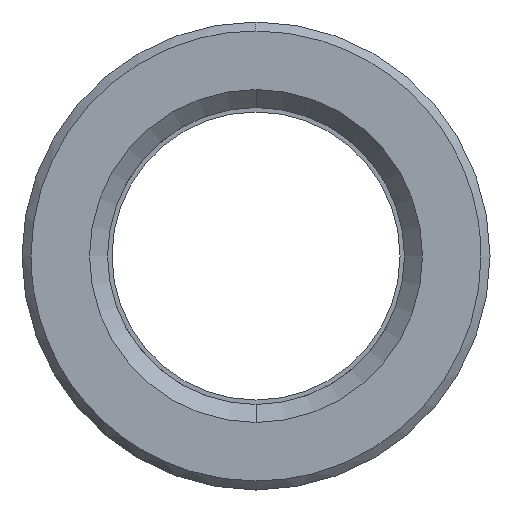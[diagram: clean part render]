
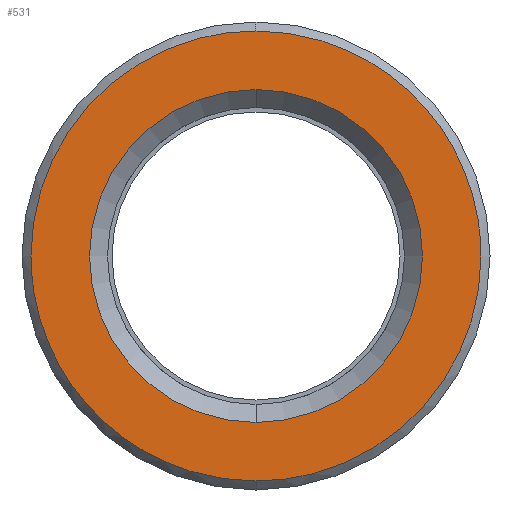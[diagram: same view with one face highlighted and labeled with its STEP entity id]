
A CAD part, left-side view. The second image highlights one B-rep face of the part: STEP entity #531.
In plain terms, the highlighted planar face has unit normal (-1, 0, 0).
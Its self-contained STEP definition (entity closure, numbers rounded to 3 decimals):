
#311=CARTESIAN_POINT('Axis2P3D Location',(0.,0.,0.)) ;
#315=CARTESIAN_POINT('Vertex',(0.,9.25,0.)) ;
#317=CARTESIAN_POINT('Vertex',(0.,0.,9.25)) ;
#320=CARTESIAN_POINT('Axis2P3D Location',(0.,0.,0.)) ;
#324=CARTESIAN_POINT('Vertex',(0.,0.,-9.25)) ;
#351=CARTESIAN_POINT('Axis2P3D Location',(0.,0.,0.)) ;
#355=CARTESIAN_POINT('Vertex',(0.,-9.25,0.)) ;
#358=CARTESIAN_POINT('Axis2P3D Location',(0.,0.,0.)) ;
#438=CARTESIAN_POINT('Axis2P3D Location',(0.,12.5,0.)) ;
#444=CARTESIAN_POINT('Control Point',(0.,0.,-12.5)) ;
#445=CARTESIAN_POINT('Control Point',(0.,0.923,-12.5)) ;
#446=CARTESIAN_POINT('Control Point',(0.,1.846,-12.415)) ;
#447=CARTESIAN_POINT('Control Point',(0.,2.758,-12.245)) ;
#448=CARTESIAN_POINT('Control Point',(0.,4.82,-11.658)) ;
#449=CARTESIAN_POINT('Control Point',(0.,6.718,-10.646)) ;
#450=CARTESIAN_POINT('Control Point',(0.,7.721,-9.943)) ;
#451=CARTESIAN_POINT('Control Point',(0.,9.535,-8.308)) ;
#452=CARTESIAN_POINT('Control Point',(0.,10.907,-6.287)) ;
#453=CARTESIAN_POINT('Control Point',(0.,11.466,-5.197)) ;
#454=CARTESIAN_POINT('Control Point',(0.,12.089,-3.503)) ;
#455=CARTESIAN_POINT('Control Point',(0.,12.399,-1.736)) ;
#456=CARTESIAN_POINT('Control Point',(0.,12.466,-1.159)) ;
#457=CARTESIAN_POINT('Control Point',(0.,12.5,-0.579)) ;
#458=CARTESIAN_POINT('Control Point',(0.,12.5,0.)) ;
#459=CARTESIAN_POINT('Vertex',(0.,0.,-12.5)) ;
#461=CARTESIAN_POINT('Vertex',(0.,12.5,0.)) ;
#465=CARTESIAN_POINT('Control Point',(0.,-12.5,0.)) ;
#466=CARTESIAN_POINT('Control Point',(0.,-12.5,-1.212)) ;
#467=CARTESIAN_POINT('Control Point',(0.,-12.353,-2.425)) ;
#468=CARTESIAN_POINT('Control Point',(0.,-12.059,-3.614)) ;
#469=CARTESIAN_POINT('Control Point',(0.,-11.189,-5.896)) ;
#470=CARTESIAN_POINT('Control Point',(0.,-9.798,-7.904)) ;
#471=CARTESIAN_POINT('Control Point',(0.,-8.984,-8.819)) ;
#472=CARTESIAN_POINT('Control Point',(0.,-7.15,-10.432)) ;
#473=CARTESIAN_POINT('Control Point',(0.,-4.984,-11.56)) ;
#474=CARTESIAN_POINT('Control Point',(0.,-3.837,-11.99)) ;
#475=CARTESIAN_POINT('Control Point',(0.,-2.366,-12.344)) ;
#476=CARTESIAN_POINT('Control Point',(0.,-0.869,-12.475)) ;
#477=CARTESIAN_POINT('Control Point',(0.,-0.579,-12.492)) ;
#478=CARTESIAN_POINT('Control Point',(0.,-0.29,-12.5)) ;
#479=CARTESIAN_POINT('Control Point',(0.,0.,-12.5)) ;
#480=CARTESIAN_POINT('Vertex',(0.,-12.5,0.)) ;
#484=CARTESIAN_POINT('Control Point',(0.,0.,12.5)) ;
#485=CARTESIAN_POINT('Control Point',(0.,-0.923,12.5)) ;
#486=CARTESIAN_POINT('Control Point',(0.,-1.846,12.415)) ;
#487=CARTESIAN_POINT('Control Point',(0.,-2.758,12.245)) ;
#488=CARTESIAN_POINT('Control Point',(0.,-4.82,11.658)) ;
#489=CARTESIAN_POINT('Control Point',(0.,-6.718,10.646)) ;
#490=CARTESIAN_POINT('Control Point',(0.,-7.721,9.943)) ;
#491=CARTESIAN_POINT('Control Point',(0.,-9.535,8.308)) ;
#492=CARTESIAN_POINT('Control Point',(0.,-10.907,6.287)) ;
#493=CARTESIAN_POINT('Control Point',(0.,-11.466,5.197)) ;
#494=CARTESIAN_POINT('Control Point',(0.,-12.089,3.503)) ;
#495=CARTESIAN_POINT('Control Point',(0.,-12.399,1.736)) ;
#496=CARTESIAN_POINT('Control Point',(0.,-12.466,1.159)) ;
#497=CARTESIAN_POINT('Control Point',(0.,-12.5,0.579)) ;
#498=CARTESIAN_POINT('Control Point',(0.,-12.5,0.)) ;
#499=CARTESIAN_POINT('Vertex',(0.,0.,12.5)) ;
#503=CARTESIAN_POINT('Control Point',(0.,12.5,0.)) ;
#504=CARTESIAN_POINT('Control Point',(0.,12.5,1.212)) ;
#505=CARTESIAN_POINT('Control Point',(0.,12.353,2.425)) ;
#506=CARTESIAN_POINT('Control Point',(0.,12.059,3.614)) ;
#507=CARTESIAN_POINT('Control Point',(0.,11.189,5.896)) ;
#508=CARTESIAN_POINT('Control Point',(0.,9.798,7.904)) ;
#509=CARTESIAN_POINT('Control Point',(0.,8.984,8.819)) ;
#510=CARTESIAN_POINT('Control Point',(0.,7.15,10.432)) ;
#511=CARTESIAN_POINT('Control Point',(0.,4.984,11.56)) ;
#512=CARTESIAN_POINT('Control Point',(0.,3.837,11.99)) ;
#513=CARTESIAN_POINT('Control Point',(0.,2.366,12.344)) ;
#514=CARTESIAN_POINT('Control Point',(0.,0.869,12.475)) ;
#515=CARTESIAN_POINT('Control Point',(0.,0.579,12.492)) ;
#516=CARTESIAN_POINT('Control Point',(0.,0.29,12.5)) ;
#517=CARTESIAN_POINT('Control Point',(0.,0.,12.5)) ;
#312=DIRECTION('Axis2P3D Direction',(-1.,0.,0.)) ;
#321=DIRECTION('Axis2P3D Direction',(-1.,0.,0.)) ;
#352=DIRECTION('Axis2P3D Direction',(-1.,0.,0.)) ;
#359=DIRECTION('Axis2P3D Direction',(-1.,0.,0.)) ;
#439=DIRECTION('Axis2P3D Direction',(-1.,0.,0.)) ;
#440=DIRECTION('Axis2P3D XDirection',(0.,0.,1.)) ;
#313=AXIS2_PLACEMENT_3D('Circle Axis2P3D',#311,#312,$) ;
#322=AXIS2_PLACEMENT_3D('Circle Axis2P3D',#320,#321,$) ;
#353=AXIS2_PLACEMENT_3D('Circle Axis2P3D',#351,#352,$) ;
#360=AXIS2_PLACEMENT_3D('Circle Axis2P3D',#358,#359,$) ;
#441=AXIS2_PLACEMENT_3D('Plane Axis2P3D',#438,#439,#440) ;
#520=ORIENTED_EDGE('',*,*,#463,.F.) ;
#521=ORIENTED_EDGE('',*,*,#482,.F.) ;
#522=ORIENTED_EDGE('',*,*,#501,.F.) ;
#523=ORIENTED_EDGE('',*,*,#518,.F.) ;
#526=ORIENTED_EDGE('',*,*,#319,.T.) ;
#527=ORIENTED_EDGE('',*,*,#362,.T.) ;
#528=ORIENTED_EDGE('',*,*,#357,.T.) ;
#529=ORIENTED_EDGE('',*,*,#326,.T.) ;
#530=FACE_BOUND('',#525,.T.) ;
#531=ADVANCED_FACE('553-16X56',(#524,#530),#442,.T.) ;
#443=B_SPLINE_CURVE_WITH_KNOTS('',5,(#444,#445,#446,#447,#448,#449,#450,#451,#452,#453,#454,#455,#456,#457,#458),.UNSPECIFIED.,.F.,.U.,(6,3,3,3,6),(27.768,34.293,42.866,51.439,55.536),.UNSPECIFIED.) ;
#464=B_SPLINE_CURVE_WITH_KNOTS('',5,(#465,#466,#467,#468,#469,#470,#471,#472,#473,#474,#475,#476,#477,#478,#479),.UNSPECIFIED.,.F.,.U.,(6,3,3,3,6),(0.,8.573,17.146,25.719,27.768),.UNSPECIFIED.) ;
#483=B_SPLINE_CURVE_WITH_KNOTS('',5,(#484,#485,#486,#487,#488,#489,#490,#491,#492,#493,#494,#495,#496,#497,#498),.UNSPECIFIED.,.F.,.U.,(6,3,3,3,6),(27.768,34.293,42.866,51.439,55.536),.UNSPECIFIED.) ;
#502=B_SPLINE_CURVE_WITH_KNOTS('',5,(#503,#504,#505,#506,#507,#508,#509,#510,#511,#512,#513,#514,#515,#516,#517),.UNSPECIFIED.,.F.,.U.,(6,3,3,3,6),(0.,8.573,17.146,25.719,27.768),.UNSPECIFIED.) ;
#314=CIRCLE('generated circle',#313,9.25) ;
#323=CIRCLE('generated circle',#322,9.25) ;
#354=CIRCLE('generated circle',#353,9.25) ;
#361=CIRCLE('generated circle',#360,9.25) ;
#319=EDGE_CURVE('',#316,#318,#314,.F.) ;
#326=EDGE_CURVE('',#325,#316,#323,.F.) ;
#357=EDGE_CURVE('',#356,#325,#354,.F.) ;
#362=EDGE_CURVE('',#318,#356,#361,.F.) ;
#463=EDGE_CURVE('',#460,#462,#443,.T.) ;
#482=EDGE_CURVE('',#481,#460,#464,.T.) ;
#501=EDGE_CURVE('',#500,#481,#483,.T.) ;
#518=EDGE_CURVE('',#462,#500,#502,.T.) ;
#519=EDGE_LOOP('',(#520,#521,#522,#523)) ;
#525=EDGE_LOOP('',(#526,#527,#528,#529)) ;
#524=FACE_OUTER_BOUND('',#519,.T.) ;
#442=PLANE('Plane',#441) ;
#316=VERTEX_POINT('',#315) ;
#318=VERTEX_POINT('',#317) ;
#325=VERTEX_POINT('',#324) ;
#356=VERTEX_POINT('',#355) ;
#460=VERTEX_POINT('',#459) ;
#462=VERTEX_POINT('',#461) ;
#481=VERTEX_POINT('',#480) ;
#500=VERTEX_POINT('',#499) ;
